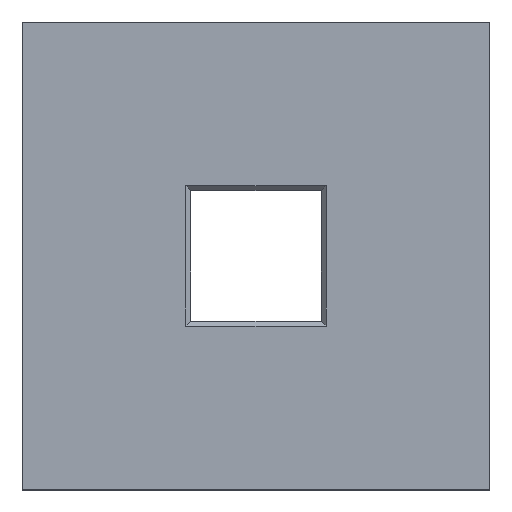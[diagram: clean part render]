
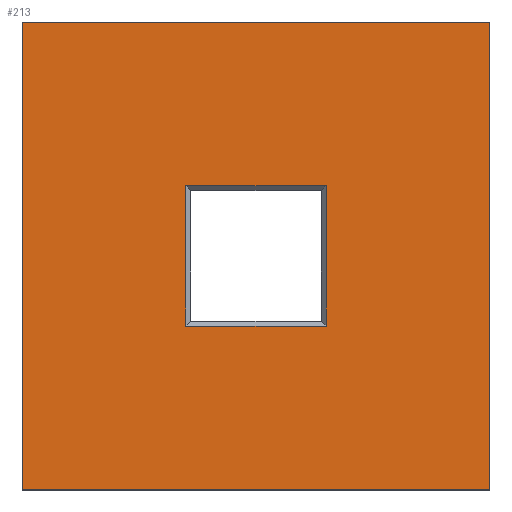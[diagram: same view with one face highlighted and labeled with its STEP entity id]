
A CAD part, top view. The second image highlights one B-rep face of the part: STEP entity #213.
In plain terms, the highlighted planar face has unit normal (0, 0, 1).
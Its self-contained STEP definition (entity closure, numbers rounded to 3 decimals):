
#24 = VERTEX_POINT('',#25);
#25 = CARTESIAN_POINT('',(-50.,-50.,30.));
#32 = PLANE('',#33);
#33 = AXIS2_PLACEMENT_3D('',#34,#35,#36);
#34 = CARTESIAN_POINT('',(-50.,-50.,0.));
#35 = DIRECTION('',(1.,0.,0.));
#36 = DIRECTION('',(0.,0.,1.));
#44 = PLANE('',#45);
#45 = AXIS2_PLACEMENT_3D('',#46,#47,#48);
#46 = CARTESIAN_POINT('',(-50.,-50.,0.));
#47 = DIRECTION('',(0.,1.,0.));
#48 = DIRECTION('',(0.,0.,1.));
#85 = VERTEX_POINT('',#86);
#86 = CARTESIAN_POINT('',(-50.,50.,30.));
#100 = PLANE('',#101);
#101 = AXIS2_PLACEMENT_3D('',#102,#103,#104);
#102 = CARTESIAN_POINT('',(-50.,50.,0.));
#103 = DIRECTION('',(0.,1.,0.));
#104 = DIRECTION('',(0.,0.,1.));
#112 = EDGE_CURVE('',#24,#85,#113,.T.);
#113 = SURFACE_CURVE('',#114,(#118,#125),.PCURVE_S1.);
#114 = LINE('',#115,#116);
#115 = CARTESIAN_POINT('',(-50.,-50.,30.));
#116 = VECTOR('',#117,1.);
#117 = DIRECTION('',(0.,1.,0.));
#118 = PCURVE('',#32,#119);
#119 = DEFINITIONAL_REPRESENTATION('',(#120),#124);
#120 = LINE('',#121,#122);
#121 = CARTESIAN_POINT('',(30.,0.));
#122 = VECTOR('',#123,1.);
#123 = DIRECTION('',(0.,-1.));
#124 = ( GEOMETRIC_REPRESENTATION_CONTEXT(2) 
PARAMETRIC_REPRESENTATION_CONTEXT() REPRESENTATION_CONTEXT('2D SPACE',''
  ) );
#125 = PCURVE('',#126,#131);
#126 = PLANE('',#127);
#127 = AXIS2_PLACEMENT_3D('',#128,#129,#130);
#128 = CARTESIAN_POINT('',(-50.,-50.,30.));
#129 = DIRECTION('',(0.,0.,1.));
#130 = DIRECTION('',(1.,0.,0.));
#131 = DEFINITIONAL_REPRESENTATION('',(#132),#136);
#132 = LINE('',#133,#134);
#133 = CARTESIAN_POINT('',(0.,0.));
#134 = VECTOR('',#135,1.);
#135 = DIRECTION('',(0.,1.));
#136 = ( GEOMETRIC_REPRESENTATION_CONTEXT(2) 
PARAMETRIC_REPRESENTATION_CONTEXT() REPRESENTATION_CONTEXT('2D SPACE',''
  ) );
#165 = EDGE_CURVE('',#24,#166,#168,.T.);
#166 = VERTEX_POINT('',#167);
#167 = CARTESIAN_POINT('',(50.,-50.,30.));
#168 = SURFACE_CURVE('',#169,(#173,#180),.PCURVE_S1.);
#169 = LINE('',#170,#171);
#170 = CARTESIAN_POINT('',(-50.,-50.,30.));
#171 = VECTOR('',#172,1.);
#172 = DIRECTION('',(1.,0.,0.));
#173 = PCURVE('',#44,#174);
#174 = DEFINITIONAL_REPRESENTATION('',(#175),#179);
#175 = LINE('',#176,#177);
#176 = CARTESIAN_POINT('',(30.,0.));
#177 = VECTOR('',#178,1.);
#178 = DIRECTION('',(0.,1.));
#179 = ( GEOMETRIC_REPRESENTATION_CONTEXT(2) 
PARAMETRIC_REPRESENTATION_CONTEXT() REPRESENTATION_CONTEXT('2D SPACE',''
  ) );
#180 = PCURVE('',#126,#181);
#181 = DEFINITIONAL_REPRESENTATION('',(#182),#186);
#182 = LINE('',#183,#184);
#183 = CARTESIAN_POINT('',(0.,0.));
#184 = VECTOR('',#185,1.);
#185 = DIRECTION('',(1.,0.));
#186 = ( GEOMETRIC_REPRESENTATION_CONTEXT(2) 
PARAMETRIC_REPRESENTATION_CONTEXT() REPRESENTATION_CONTEXT('2D SPACE',''
  ) );
#202 = PLANE('',#203);
#203 = AXIS2_PLACEMENT_3D('',#204,#205,#206);
#204 = CARTESIAN_POINT('',(50.,-50.,0.));
#205 = DIRECTION('',(1.,0.,0.));
#206 = DIRECTION('',(0.,0.,1.));
#213 = ADVANCED_FACE('',(#214,#262),#126,.T.);
#214 = FACE_BOUND('',#215,.T.);
#215 = EDGE_LOOP('',(#216,#217,#218,#241));
#216 = ORIENTED_EDGE('',*,*,#112,.F.);
#217 = ORIENTED_EDGE('',*,*,#165,.T.);
#218 = ORIENTED_EDGE('',*,*,#219,.T.);
#219 = EDGE_CURVE('',#166,#220,#222,.T.);
#220 = VERTEX_POINT('',#221);
#221 = CARTESIAN_POINT('',(50.,50.,30.));
#222 = SURFACE_CURVE('',#223,(#227,#234),.PCURVE_S1.);
#223 = LINE('',#224,#225);
#224 = CARTESIAN_POINT('',(50.,-50.,30.));
#225 = VECTOR('',#226,1.);
#226 = DIRECTION('',(0.,1.,0.));
#227 = PCURVE('',#126,#228);
#228 = DEFINITIONAL_REPRESENTATION('',(#229),#233);
#229 = LINE('',#230,#231);
#230 = CARTESIAN_POINT('',(100.,0.));
#231 = VECTOR('',#232,1.);
#232 = DIRECTION('',(0.,1.));
#233 = ( GEOMETRIC_REPRESENTATION_CONTEXT(2) 
PARAMETRIC_REPRESENTATION_CONTEXT() REPRESENTATION_CONTEXT('2D SPACE',''
  ) );
#234 = PCURVE('',#202,#235);
#235 = DEFINITIONAL_REPRESENTATION('',(#236),#240);
#236 = LINE('',#237,#238);
#237 = CARTESIAN_POINT('',(30.,0.));
#238 = VECTOR('',#239,1.);
#239 = DIRECTION('',(0.,-1.));
#240 = ( GEOMETRIC_REPRESENTATION_CONTEXT(2) 
PARAMETRIC_REPRESENTATION_CONTEXT() REPRESENTATION_CONTEXT('2D SPACE',''
  ) );
#241 = ORIENTED_EDGE('',*,*,#242,.F.);
#242 = EDGE_CURVE('',#85,#220,#243,.T.);
#243 = SURFACE_CURVE('',#244,(#248,#255),.PCURVE_S1.);
#244 = LINE('',#245,#246);
#245 = CARTESIAN_POINT('',(-50.,50.,30.));
#246 = VECTOR('',#247,1.);
#247 = DIRECTION('',(1.,0.,0.));
#248 = PCURVE('',#126,#249);
#249 = DEFINITIONAL_REPRESENTATION('',(#250),#254);
#250 = LINE('',#251,#252);
#251 = CARTESIAN_POINT('',(0.,100.));
#252 = VECTOR('',#253,1.);
#253 = DIRECTION('',(1.,0.));
#254 = ( GEOMETRIC_REPRESENTATION_CONTEXT(2) 
PARAMETRIC_REPRESENTATION_CONTEXT() REPRESENTATION_CONTEXT('2D SPACE',''
  ) );
#255 = PCURVE('',#100,#256);
#256 = DEFINITIONAL_REPRESENTATION('',(#257),#261);
#257 = LINE('',#258,#259);
#258 = CARTESIAN_POINT('',(30.,0.));
#259 = VECTOR('',#260,1.);
#260 = DIRECTION('',(0.,1.));
#261 = ( GEOMETRIC_REPRESENTATION_CONTEXT(2) 
PARAMETRIC_REPRESENTATION_CONTEXT() REPRESENTATION_CONTEXT('2D SPACE',''
  ) );
#262 = FACE_BOUND('',#263,.T.);
#263 = EDGE_LOOP('',(#264,#294,#322,#350));
#264 = ORIENTED_EDGE('',*,*,#265,.F.);
#265 = EDGE_CURVE('',#266,#268,#270,.T.);
#266 = VERTEX_POINT('',#267);
#267 = CARTESIAN_POINT('',(-15.,-15.,30.));
#268 = VERTEX_POINT('',#269);
#269 = CARTESIAN_POINT('',(15.,-15.,30.));
#270 = SURFACE_CURVE('',#271,(#275,#282),.PCURVE_S1.);
#271 = LINE('',#272,#273);
#272 = CARTESIAN_POINT('',(-15.,-15.,30.));
#273 = VECTOR('',#274,1.);
#274 = DIRECTION('',(1.,0.,0.));
#275 = PCURVE('',#126,#276);
#276 = DEFINITIONAL_REPRESENTATION('',(#277),#281);
#277 = LINE('',#278,#279);
#278 = CARTESIAN_POINT('',(35.,35.));
#279 = VECTOR('',#280,1.);
#280 = DIRECTION('',(1.,0.));
#281 = ( GEOMETRIC_REPRESENTATION_CONTEXT(2) 
PARAMETRIC_REPRESENTATION_CONTEXT() REPRESENTATION_CONTEXT('2D SPACE',''
  ) );
#282 = PCURVE('',#283,#288);
#283 = B_SPLINE_SURFACE_WITH_KNOTS('',1,1,(
    (#284,#285)
    ,(#286,#287
  )),.UNSPECIFIED.,.F.,.F.,.F.,(2,2),(2,2),(0.,30.),(0.,1.),
  .PIECEWISE_BEZIER_KNOTS.);
#284 = CARTESIAN_POINT('',(-14.,-14.,29.));
#285 = CARTESIAN_POINT('',(-15.,-15.,30.));
#286 = CARTESIAN_POINT('',(14.,-14.,29.));
#287 = CARTESIAN_POINT('',(15.,-15.,30.));
#288 = DEFINITIONAL_REPRESENTATION('',(#289),#293);
#289 = LINE('',#290,#291);
#290 = CARTESIAN_POINT('',(0.,1.));
#291 = VECTOR('',#292,1.);
#292 = DIRECTION('',(1.,0.));
#293 = ( GEOMETRIC_REPRESENTATION_CONTEXT(2) 
PARAMETRIC_REPRESENTATION_CONTEXT() REPRESENTATION_CONTEXT('2D SPACE',''
  ) );
#294 = ORIENTED_EDGE('',*,*,#295,.F.);
#295 = EDGE_CURVE('',#296,#266,#298,.T.);
#296 = VERTEX_POINT('',#297);
#297 = CARTESIAN_POINT('',(-15.,15.,30.));
#298 = SURFACE_CURVE('',#299,(#303,#310),.PCURVE_S1.);
#299 = LINE('',#300,#301);
#300 = CARTESIAN_POINT('',(-15.,15.,30.));
#301 = VECTOR('',#302,1.);
#302 = DIRECTION('',(0.,-1.,0.));
#303 = PCURVE('',#126,#304);
#304 = DEFINITIONAL_REPRESENTATION('',(#305),#309);
#305 = LINE('',#306,#307);
#306 = CARTESIAN_POINT('',(35.,65.));
#307 = VECTOR('',#308,1.);
#308 = DIRECTION('',(0.,-1.));
#309 = ( GEOMETRIC_REPRESENTATION_CONTEXT(2) 
PARAMETRIC_REPRESENTATION_CONTEXT() REPRESENTATION_CONTEXT('2D SPACE',''
  ) );
#310 = PCURVE('',#311,#316);
#311 = B_SPLINE_SURFACE_WITH_KNOTS('',1,1,(
    (#312,#313)
    ,(#314,#315
  )),.UNSPECIFIED.,.F.,.F.,.F.,(2,2),(2,2),(0.,30.),(0.,1.),
  .PIECEWISE_BEZIER_KNOTS.);
#312 = CARTESIAN_POINT('',(-14.,14.,29.));
#313 = CARTESIAN_POINT('',(-15.,15.,30.));
#314 = CARTESIAN_POINT('',(-14.,-14.,29.));
#315 = CARTESIAN_POINT('',(-15.,-15.,30.));
#316 = DEFINITIONAL_REPRESENTATION('',(#317),#321);
#317 = LINE('',#318,#319);
#318 = CARTESIAN_POINT('',(0.,1.));
#319 = VECTOR('',#320,1.);
#320 = DIRECTION('',(1.,0.));
#321 = ( GEOMETRIC_REPRESENTATION_CONTEXT(2) 
PARAMETRIC_REPRESENTATION_CONTEXT() REPRESENTATION_CONTEXT('2D SPACE',''
  ) );
#322 = ORIENTED_EDGE('',*,*,#323,.F.);
#323 = EDGE_CURVE('',#324,#296,#326,.T.);
#324 = VERTEX_POINT('',#325);
#325 = CARTESIAN_POINT('',(15.,15.,30.));
#326 = SURFACE_CURVE('',#327,(#331,#338),.PCURVE_S1.);
#327 = LINE('',#328,#329);
#328 = CARTESIAN_POINT('',(15.,15.,30.));
#329 = VECTOR('',#330,1.);
#330 = DIRECTION('',(-1.,0.,0.));
#331 = PCURVE('',#126,#332);
#332 = DEFINITIONAL_REPRESENTATION('',(#333),#337);
#333 = LINE('',#334,#335);
#334 = CARTESIAN_POINT('',(65.,65.));
#335 = VECTOR('',#336,1.);
#336 = DIRECTION('',(-1.,0.));
#337 = ( GEOMETRIC_REPRESENTATION_CONTEXT(2) 
PARAMETRIC_REPRESENTATION_CONTEXT() REPRESENTATION_CONTEXT('2D SPACE',''
  ) );
#338 = PCURVE('',#339,#344);
#339 = B_SPLINE_SURFACE_WITH_KNOTS('',1,1,(
    (#340,#341)
    ,(#342,#343
  )),.UNSPECIFIED.,.F.,.F.,.F.,(2,2),(2,2),(0.,30.),(0.,1.),
  .PIECEWISE_BEZIER_KNOTS.);
#340 = CARTESIAN_POINT('',(14.,14.,29.));
#341 = CARTESIAN_POINT('',(15.,15.,30.));
#342 = CARTESIAN_POINT('',(-14.,14.,29.));
#343 = CARTESIAN_POINT('',(-15.,15.,30.));
#344 = DEFINITIONAL_REPRESENTATION('',(#345),#349);
#345 = LINE('',#346,#347);
#346 = CARTESIAN_POINT('',(0.,1.));
#347 = VECTOR('',#348,1.);
#348 = DIRECTION('',(1.,0.));
#349 = ( GEOMETRIC_REPRESENTATION_CONTEXT(2) 
PARAMETRIC_REPRESENTATION_CONTEXT() REPRESENTATION_CONTEXT('2D SPACE',''
  ) );
#350 = ORIENTED_EDGE('',*,*,#351,.F.);
#351 = EDGE_CURVE('',#268,#324,#352,.T.);
#352 = SURFACE_CURVE('',#353,(#357,#364),.PCURVE_S1.);
#353 = LINE('',#354,#355);
#354 = CARTESIAN_POINT('',(15.,-15.,30.));
#355 = VECTOR('',#356,1.);
#356 = DIRECTION('',(0.,1.,0.));
#357 = PCURVE('',#126,#358);
#358 = DEFINITIONAL_REPRESENTATION('',(#359),#363);
#359 = LINE('',#360,#361);
#360 = CARTESIAN_POINT('',(65.,35.));
#361 = VECTOR('',#362,1.);
#362 = DIRECTION('',(0.,1.));
#363 = ( GEOMETRIC_REPRESENTATION_CONTEXT(2) 
PARAMETRIC_REPRESENTATION_CONTEXT() REPRESENTATION_CONTEXT('2D SPACE',''
  ) );
#364 = PCURVE('',#365,#370);
#365 = B_SPLINE_SURFACE_WITH_KNOTS('',1,1,(
    (#366,#367)
    ,(#368,#369
  )),.UNSPECIFIED.,.F.,.F.,.F.,(2,2),(2,2),(0.,30.),(0.,1.),
  .PIECEWISE_BEZIER_KNOTS.);
#366 = CARTESIAN_POINT('',(14.,-14.,29.));
#367 = CARTESIAN_POINT('',(15.,-15.,30.));
#368 = CARTESIAN_POINT('',(14.,14.,29.));
#369 = CARTESIAN_POINT('',(15.,15.,30.));
#370 = DEFINITIONAL_REPRESENTATION('',(#371),#375);
#371 = LINE('',#372,#373);
#372 = CARTESIAN_POINT('',(0.,1.));
#373 = VECTOR('',#374,1.);
#374 = DIRECTION('',(1.,0.));
#375 = ( GEOMETRIC_REPRESENTATION_CONTEXT(2) 
PARAMETRIC_REPRESENTATION_CONTEXT() REPRESENTATION_CONTEXT('2D SPACE',''
  ) );
